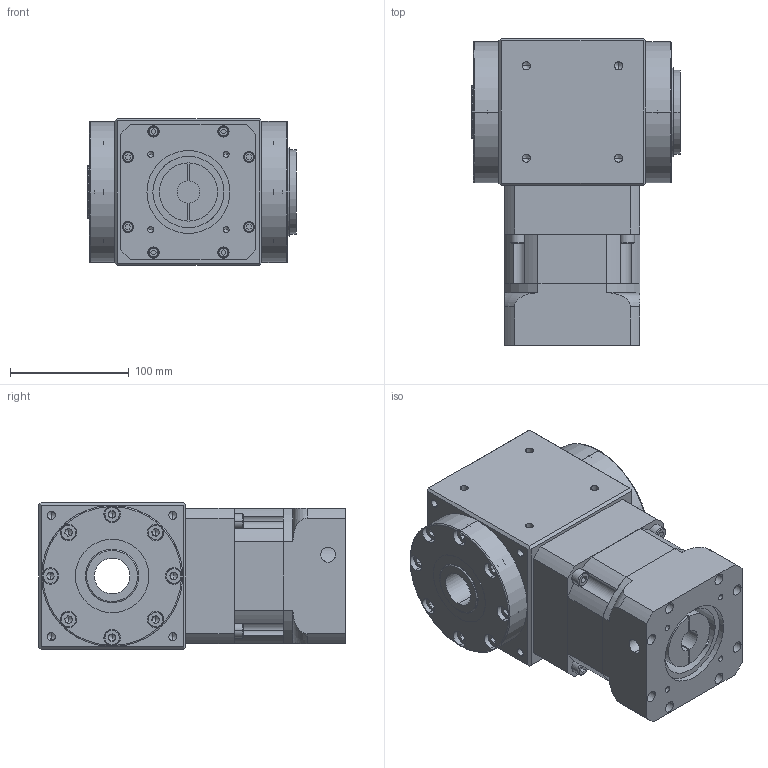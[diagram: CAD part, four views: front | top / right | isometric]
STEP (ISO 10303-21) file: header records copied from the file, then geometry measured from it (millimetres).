
FILE_DESCRIPTION (( 'STEP AP214' ), '1' );
FILE_NAME ('RAM120-L1-XX-F-19-70-90-M6_2019.STEP', '2019-04-09T03:43:07', ( 'Y' ), ( 'NCU' ), 'SwSTEP 2.0', 'SolidWorks 2016', '' );
FILE_SCHEMA (( 'AUTOMOTIVE_DESIGN' ));
Length unit declared in the file: millimetre
Products named in the file (1): RAM120-L1-XX-F-19-70-90-M6_2019
Bounding box: 176 x 258.8 x 124 mm (x, y, z)
Volume: 3829039.7 mm3; surface area: 328701.9 mm2
Topology: 4 solids, 20 shells, 885 faces, 2092 edges, 1272 vertices
Faces by surface type: plane 429, cylinder 290, cone 120, torus 46
Entity records: 28679 total; most frequent: CARTESIAN_POINT 6908, DIRECTION 4542, ORIENTED_EDGE 3992, EDGE_CURVE 1996, AXIS2_PLACEMENT_3D 1726, VERTEX_POINT 1272, LINE 1090, VECTOR 1090
